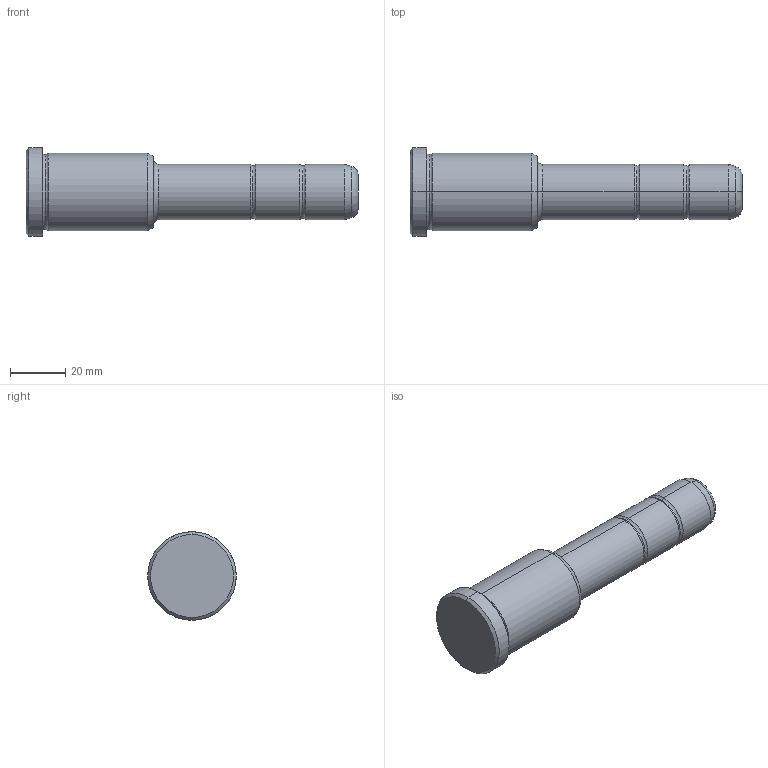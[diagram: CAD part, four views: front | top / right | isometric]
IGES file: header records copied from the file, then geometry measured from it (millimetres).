
Start section: START RECORD GO HERE.
Global section: file name: 351-20X46X120.igs; native system: DASSAULT SYSTEMES CATIA V5 R20 - www.3ds.com; preprocessor: CATIA Version 5 Release 20 ; author: Utente; organization: NB04-ASUS; date: 20210827.145628; units: millimetre
Bounding box: 120 x 32 x 32 mm (x, y, z)
Surface area: 10113.9 mm2 (no closed solid volume)
Topology: 0 solids, 0 shells, 36 faces, 204 edges, 204 vertices
Faces by surface type: revolution 32, plane 4
